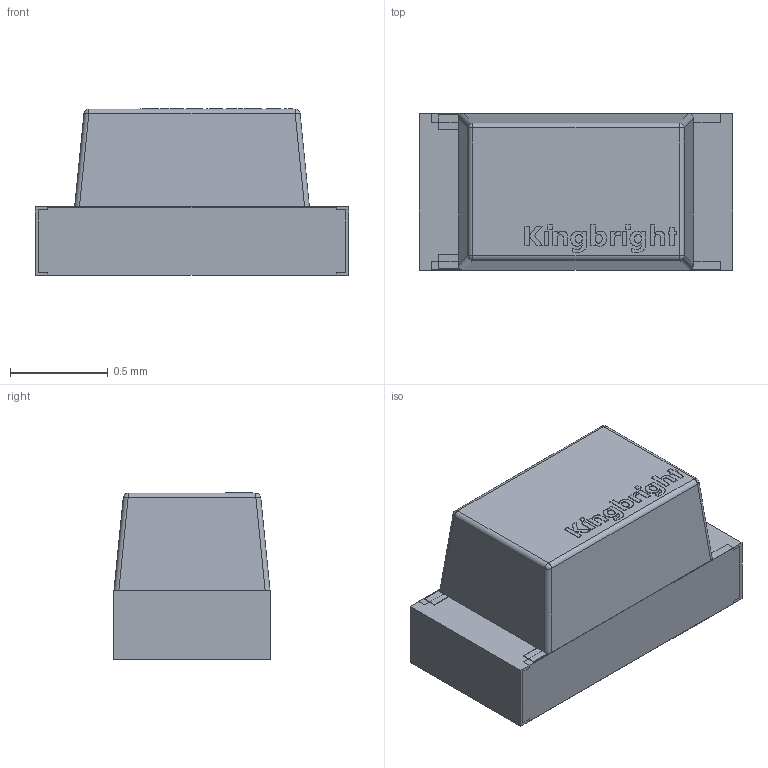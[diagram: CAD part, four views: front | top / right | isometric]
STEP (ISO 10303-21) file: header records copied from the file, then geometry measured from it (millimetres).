
FILE_DESCRIPTION(/* description */ (''),/* implementation_level */ '2;1');
FILE_NAME(/* name */ 'C:\Users\Ricardo\Documents\Upverter 3D models\Kingbright\APT1608EC\Kingbright APT1608EC - Red 617nm LED Indication - Discrete 2V 0603 (1608 Metric).stp',/* time_stamp */ '2020-06-02T00:36:16-04:00',/* author */ ('Ricardo'),/* organization */ (''),/* preprocessor_version */ 'ST-DEVELOPER v18.1',/* originating_system */ 'Autodesk Inventor 2021',/* authorisation */ '');
FILE_SCHEMA (('AUTOMOTIVE_DESIGN { 1 0 10303 214 3 1 1 }'));
Length unit declared in the file: millimetre
Products named in the file (6): Kingbright APT1608MGC - Green 570nm LED Indication - Discrete 2.1V 06
03 (1608 Metric); base; terminals; lens; cathode mark; logo
Assembly tree (5 placements, depth 2):
  Kingbright APT1608MGC - Green 570nm LED Indication - Discrete 2.1V 06
03 (1608 Metric)
    base
    terminals
    lens
    cathode mark
    logo
Bounding box: 1.6 x 0.8 x 0.85 mm (x, y, z)
Volume: 0.9 mm3; surface area: 10.8 mm2
Topology: 18 solids, 18 shells, 249 faces, 627 edges, 414 vertices
Faces by surface type: plane 187, bspline 46, cylinder 12, sphere 4
Entity records: 7764 total; most frequent: CARTESIAN_POINT 1815, ORIENTED_EDGE 1254, DIRECTION 987, EDGE_CURVE 627, LINE 511, VECTOR 511, VERTEX_POINT 414, EDGE_LOOP 255
